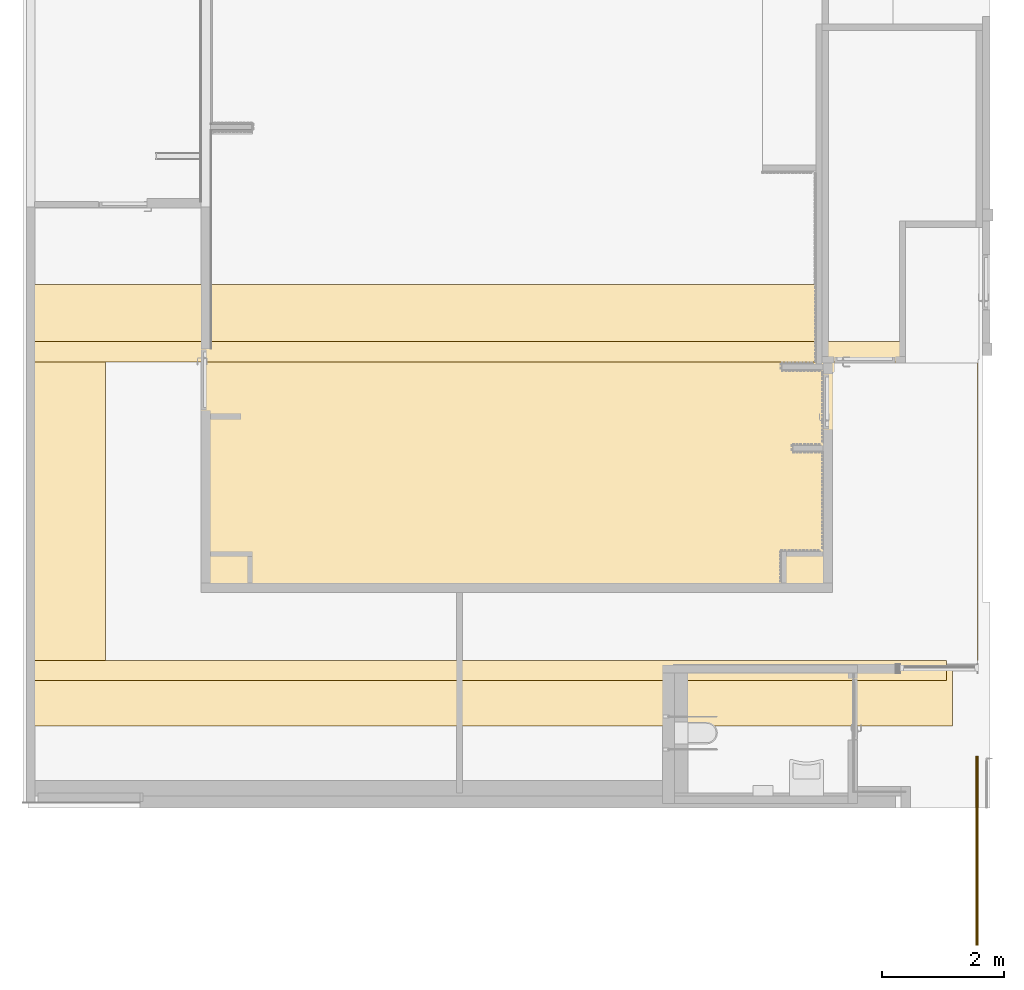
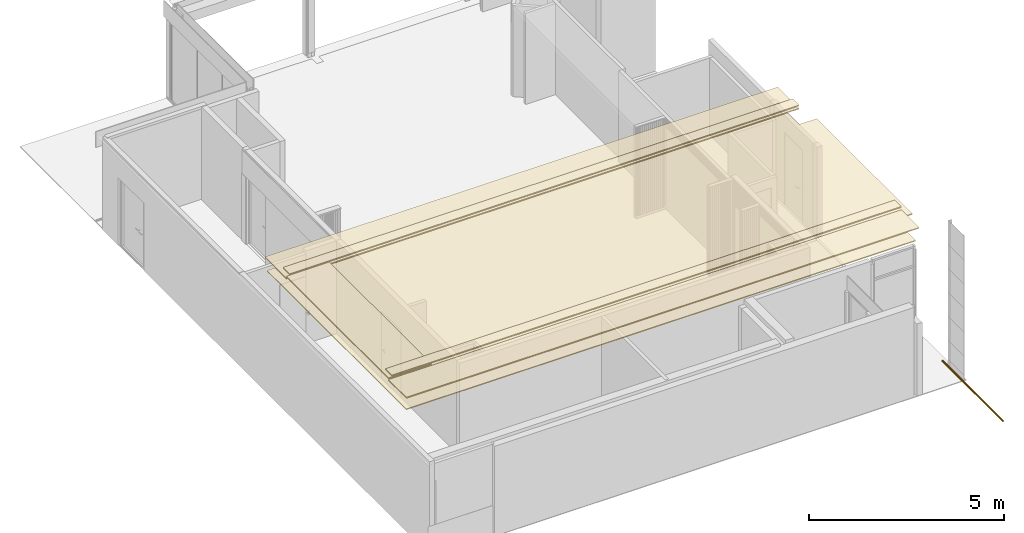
# One storey, part 30 of 37: 6 coverings, 1 railing.
"""IFC2X3 building model written with IfcOpenShell, lengths in millimetres."""

from ifc_helpers import new_model, entity, si_unit, converted_unit, derived_unit, direction, frame, origin_with_axes, origin_2d_with_axis, place, context, subcontext, project, spatial, circle, extrude, faceted_brep, material, type_object, element, save


model = new_model("IFC2X3")

# Units and contexts
model_context = context("Model", 3, precision=0.01, world=frame((0.0, 4.29681676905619e-09, 0.0)), true_north=direction((4.01073788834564e-13, 1.0)))
plan_context = context("Plan", 3, precision=0.01, world=frame((0.0, 4.29681676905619e-09, 0.0)), true_north=direction((4.01073788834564e-13, 1.0)))
body_context = subcontext(model_context, "Body", "Model", "MODEL_VIEW")
ifc_project = project(units=[converted_unit("PLANEANGLEUNIT", "DEGREE", entity("IfcPositiveLengthMeasure", 0.0174532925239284), si_unit("PLANEANGLEUNIT", "RADIAN"), dimensions=[0, 0, 0, 0, 0, 0, 0]), si_unit("AREAUNIT", "SQUARE_METRE"), si_unit("LENGTHUNIT", "METRE", prefix="MILLI"), si_unit("MASSUNIT", "GRAM", prefix="KILO"), si_unit("POWERUNIT", "WATT"), si_unit("PRESSUREUNIT", "PASCAL"), si_unit("FORCEUNIT", "NEWTON", prefix="KILO"), si_unit("ELECTRICVOLTAGEUNIT", "VOLT"), si_unit("ELECTRICCURRENTUNIT", "AMPERE"), si_unit("THERMODYNAMICTEMPERATUREUNIT", "DEGREE_CELSIUS"), si_unit("TIMEUNIT", "SECOND"), si_unit("VOLUMEUNIT", "CUBIC_METRE"), derived_unit("LINEARVELOCITYUNIT", [(si_unit("LENGTHUNIT", "METRE"), 1), (si_unit("TIMEUNIT", "SECOND"), -1)]), derived_unit("VOLUMETRICFLOWRATEUNIT", [(si_unit("VOLUMEUNIT", "CUBIC_METRE"), 1), (si_unit("TIMEUNIT", "SECOND"), -1)]), derived_unit("THERMALTRANSMITTANCEUNIT", [(si_unit("POWERUNIT", "WATT"), 1), (si_unit("THERMODYNAMICTEMPERATUREUNIT", "KELVIN"), -1), (si_unit("AREAUNIT", "SQUARE_METRE"), -1)]), derived_unit("SOUNDPRESSUREUNIT", [(si_unit("PRESSUREUNIT", "PASCAL"), 1)])], contexts=[model_context, plan_context])

# Site, building, storey
site_placement = place(None, origin_with_axes())
site = spatial("IfcSite", under=ifc_project, at=site_placement, Name="ENGM", CompositionType="ELEMENT")
building_placement = place(site_placement, origin_with_axes())
building = spatial("IfcBuilding", under=site, at=building_placement, Name="TS", CompositionType="ELEMENT")
storey_placement = place(building_placement, frame((0.0, 0.0, 210900.0), z_axis=(0.0, 0.0, 1.0), x_axis=(1.0, 0.0, 0.0)))
storey = spatial("IfcBuildingStorey", under=building, at=storey_placement, Name="Nivå F", CompositionType="ELEMENT", Elevation=210900.0)

# Coverings
covering_type_1 = type_object("IfcCoveringType", Name="Compound Ceiling:A255 - eksisterende finerte himlingsplater", PredefinedType="CEILING")
covering_1_placement = place(storey_placement, origin_with_axes())
element("IfcCovering", 1, at=covering_1_placement, inside=storey, type_object=covering_type_1, Name="Compound Ceiling:A255 - eksisterende finerte himlingsplater", ObjectType="Compound Ceiling:A255 - eksisterende finerte himlingsplater", PredefinedType="CEILING", context=body_context, shape_type="Brep", body=[
    faceted_brep([(535699.999999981, 448269.999999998, 4125.0), (535699.999999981, 448269.999999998, 4154.99999999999), (535699.999999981, 449362.999999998, 4154.99999999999), (535699.999999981, 449362.999999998, 4125.0), (520544.987500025, 449362.999999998, 4154.99999999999), (520544.987500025, 449362.999999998, 4125.0), (520544.987500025, 448269.999999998, 4125.0), (520544.987500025, 448269.999999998, 4154.99999999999)], [[[0, 1, 2, 3]], [[4, 5, 3, 2]], [[6, 7, 1, 0]], [[5, 6, 0, 3]], [[7, 4, 2, 1]], [[7, 6, 5, 4]]], orient=[[False], [False], [False], [False], [False], [False]]),
])
covering_2_placement = place(storey_placement, origin_with_axes())
element("IfcCovering", 2, at=covering_2_placement, inside=storey, type_object=covering_type_1, Name="Compound Ceiling:A255 - eksisterende finerte himlingsplater", ObjectType="Compound Ceiling:A255 - eksisterende finerte himlingsplater", PredefinedType="CEILING", context=body_context, shape_type="Brep", body=[
    faceted_brep([(535599.999999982, 448092.999999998, 4365.0), (535599.999999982, 448092.999999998, 4394.99999999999), (535599.999999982, 448422.999999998, 4394.99999999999), (535599.999999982, 448422.999999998, 4365.0), (520544.987500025, 448422.999999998, 4394.99999999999), (520544.987500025, 448422.999999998, 4365.0), (520544.987500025, 448092.999999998, 4365.0), (520544.987500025, 448092.999999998, 4394.99999999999)], [[[0, 1, 2, 3]], [[4, 5, 3, 2]], [[6, 7, 1, 0]], [[5, 6, 0, 3]], [[7, 4, 2, 1]], [[7, 6, 5, 4]]], orient=[[False], [False], [False], [False], [False], [False]]),
])
covering_3_placement = place(storey_placement, origin_with_axes())
element("IfcCovering", 3, at=covering_3_placement, inside=storey, type_object=covering_type_1, Name="Compound Ceiling:A255 - eksisterende finerte himlingsplater", ObjectType="Compound Ceiling:A255 - eksisterende finerte himlingsplater", PredefinedType="CEILING", context=body_context, shape_type="Brep", body=[
    faceted_brep([(535599.999999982, 442867.999999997, 4365.0), (535599.999999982, 442867.999999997, 4394.99999999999), (535599.999999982, 443197.999999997, 4394.99999999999), (535599.999999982, 443197.999999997, 4365.0), (520544.987500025, 443197.999999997, 4394.99999999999), (520544.987500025, 443197.999999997, 4365.0), (520544.987500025, 442867.999999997, 4365.0), (520544.987500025, 442867.999999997, 4394.99999999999)], [[[0, 1, 2, 3]], [[4, 5, 3, 2]], [[6, 7, 1, 0]], [[5, 6, 0, 3]], [[7, 4, 2, 1]], [[7, 6, 5, 4]]], orient=[[False], [False], [False], [False], [False], [False]]),
])
covering_4_placement = place(storey_placement, origin_with_axes())
element("IfcCovering", 4, at=covering_4_placement, inside=storey, type_object=covering_type_1, Name="Compound Ceiling:A255 - eksisterende finerte himlingsplater", ObjectType="Compound Ceiling:A255 - eksisterende finerte himlingsplater", PredefinedType="CEILING", context=body_context, shape_type="Brep", body=[
    faceted_brep([(535699.999999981, 442123.999999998, 4125.0), (535699.999999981, 442123.999999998, 4154.99999999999), (535699.999999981, 443035.000000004, 4154.99999999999), (535699.999999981, 443035.000000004, 4125.0), (520544.987500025, 443035.000000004, 4154.99999999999), (520544.987500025, 443035.000000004, 4125.0), (520544.987500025, 442123.999999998, 4125.0), (520544.987500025, 442123.999999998, 4154.99999999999)], [[[0, 1, 2, 3]], [[4, 5, 3, 2]], [[6, 7, 1, 0]], [[5, 6, 0, 3]], [[7, 4, 2, 1]], [[7, 6, 5, 4]]], orient=[[False], [False], [False], [False], [False], [False]]),
])
covering_type_2 = type_object("IfcCoveringType", Name="Compound Ceiling:A255 - HI-G03", PredefinedType="CEILING")
covering_5_placement = place(storey_placement, origin_with_axes())
element("IfcCovering", 5, at=covering_5_placement, inside=storey, type_object=covering_type_2, Name="Compound Ceiling:A255 - HI-G03", ObjectType="Compound Ceiling:A255 - HI-G03", PredefinedType="CEILING", context=body_context, shape_type="Brep", body=[
    faceted_brep([(520544.987500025, 442123.999999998, 3760.0), (520544.987500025, 442123.999999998, 3789.99999999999), (535599.999999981, 442123.999999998, 3789.99999999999), (535599.999999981, 442123.999999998, 3760.0), (535599.999999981, 443197.999999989, 3789.99999999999), (535599.999999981, 443197.999999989, 3760.0), (536120.23749998, 443197.999999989, 3789.99999999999), (536120.23749998, 443197.999999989, 3760.0), (536120.23749998, 448092.999999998, 3789.99999999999), (536120.23749998, 448092.999999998, 3760.0), (535599.999999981, 448092.999999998, 3789.99999999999), (535599.999999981, 448092.999999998, 3760.0), (535599.999999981, 449262.999999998, 3789.99999999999), (535599.999999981, 449262.999999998, 3760.0), (520544.987500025, 449262.999999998, 3789.99999999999), (520544.987500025, 449262.999999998, 3760.0)], [[[0, 1, 2, 3]], [[3, 2, 4, 5]], [[5, 4, 6, 7]], [[7, 6, 8, 9]], [[9, 8, 10, 11]], [[11, 10, 12, 13]], [[14, 15, 13, 12]], [[15, 0, 3, 5, 7, 9, 11, 13]], [[1, 14, 12, 10, 8, 6, 4, 2]], [[15, 14, 1, 0]]], orient=[[False], [False], [False], [False], [False], [False], [False], [False], [False], [False]]),
])
covering_type_3 = type_object("IfcCoveringType", Name="Compound Ceiling:A255 - eksisterende himling perfo. metall paneler 200", PredefinedType="CEILING")
covering_6_placement = place(storey_placement, origin_with_axes())
element("IfcCovering", 6, at=covering_6_placement, inside=storey, type_object=covering_type_3, Name="Compound Ceiling:A255 - eksisterende himling perfo. metall paneler 200", ObjectType="Compound Ceiling:A255 - eksisterende himling perfo. metall paneler 200", PredefinedType="CEILING", context=body_context, shape_type="Brep", body=[
    faceted_brep([(521815.287499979, 443035.000000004, 4180.0), (521815.287499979, 443035.000000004, 4209.99999999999), (521815.287499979, 448269.999999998, 4209.99999999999), (521815.287499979, 448269.999999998, 4180.0), (520544.987500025, 448269.999999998, 4209.99999999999), (520544.987500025, 448269.999999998, 4180.0), (520544.987500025, 443035.000000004, 4180.0), (520544.987500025, 443035.000000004, 4209.99999999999)], [[[0, 1, 2, 3]], [[4, 5, 3, 2]], [[6, 7, 1, 0]], [[5, 6, 0, 3]], [[7, 4, 2, 1]], [[7, 6, 5, 4]]], orient=[[False], [False], [False], [False], [False], [False]]),
])

# Railing
ifc_material = material(Name="<Unnamed>")
railing_type = type_object("IfcRailingType", Name="Railing:A247 Fendring - FE-S01 - Avviser, montert m. brakett mot dekke, 1 rør Ø=49 mm", PredefinedType="NOTDEFINED")
railing_placement = place(storey_placement, origin_with_axes())
element("IfcRailing", 7, at=railing_placement, inside=storey, type_object=railing_type, material=ifc_material, Name="Railing:A247 Fendring - FE-S01 - Avviser, montert m. brakett mot dekke, 1 rør Ø=49 mm", ObjectType="Railing:A247 Fendring - FE-S01 - Avviser, montert m. brakett mot dekke, 1 rør Ø=49 mm", PredefinedType="NOTDEFINED", context=body_context, shape_type="SweptSolid", body=[
    extrude(circle(Radius=25.0, at=origin_2d_with_axis()), frame((536104.999999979, 438523.175000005, 147.0), z_axis=(0.0, 1.0, 0.0), x_axis=(1.0, 0.0, 0.0)), (0.0, 0.0, 1.0), 3106.82500000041),
])

save(model, "model.ifc")
